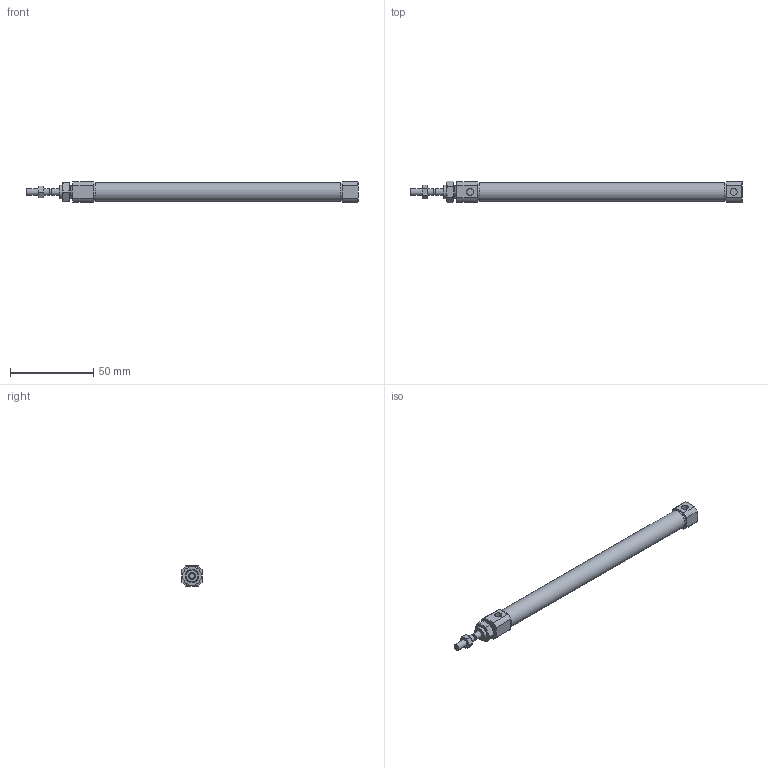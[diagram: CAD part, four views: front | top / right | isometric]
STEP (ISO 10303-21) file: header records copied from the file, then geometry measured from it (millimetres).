
FILE_DESCRIPTION((''),'2;1');
FILE_NAME('I:\3D電子目錄\氣缸\SBA\SBA\SBA10\SBA10x125.stp','2007-10-04T11:42:44',('66-2f-008'),(''),'Autodesk Inventor 11','Autodesk Inventor 11','');
FILE_SCHEMA(('AUTOMOTIVE_DESIGN { 1 0 10303 214 1 1 1 1 }'));
Length unit declared in the file: millimetre
Products named in the file (1): SBA10
Bounding box: 199 x 12.7 x 12 mm (x, y, z)
Volume: 18657 mm3; surface area: 7455.2 mm2
Topology: 1 solids, 1 shells, 88 faces, 186 edges, 113 vertices
Faces by surface type: plane 35, cone 30, cylinder 18, bspline 5
Full cylindrical faces by diameter (mm): 3.2 x1, 4 x3, 8 x3, 10.7 x2, 11.3 x1
Entity records: 2337 total; most frequent: CARTESIAN_POINT 609, DIRECTION 352, ORIENTED_EDGE 342, EDGE_CURVE 171, AXIS2_PLACEMENT_3D 153, EDGE_LOOP 116, VERTEX_POINT 113, FACE_OUTER_BOUND 88
